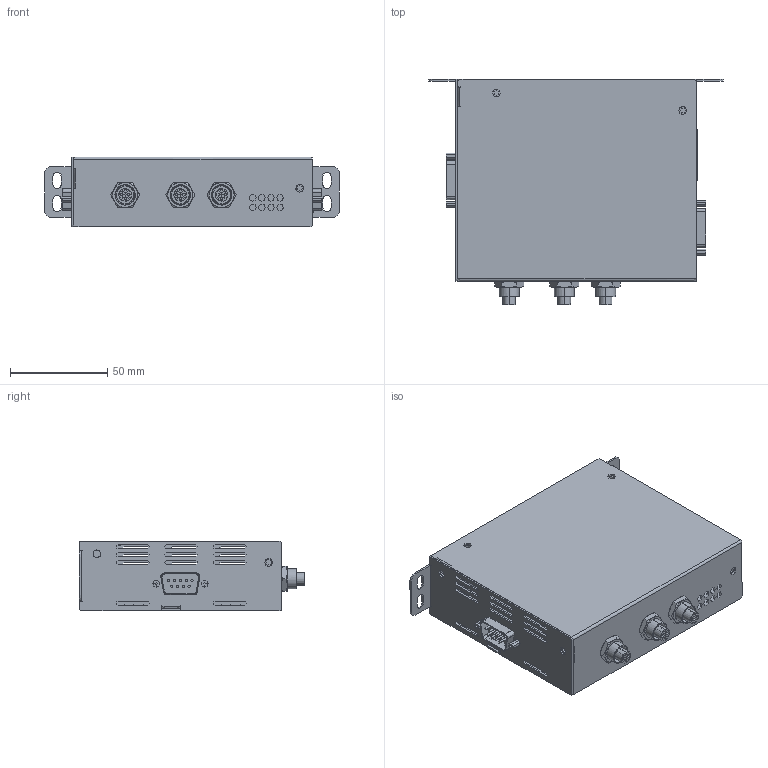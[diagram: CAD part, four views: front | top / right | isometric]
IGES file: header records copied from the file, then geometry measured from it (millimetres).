
Global section: file name: C:\Users\Administrator\Desktop\; native system: Rhinoceros ( Nov 21 2023 ); preprocessor: Trout Lake IGES 012 Nov 21 2023; date: 250321.065021; units: centimetre
Bounding box: 151.99 x 116 x 36 mm (x, y, z)
Surface area: 93105.3 mm2 (no closed solid volume)
Topology: 0 solids, 0 shells, 894 faces, 5462 edges, 5454 vertices
Faces by surface type: bspline 894
